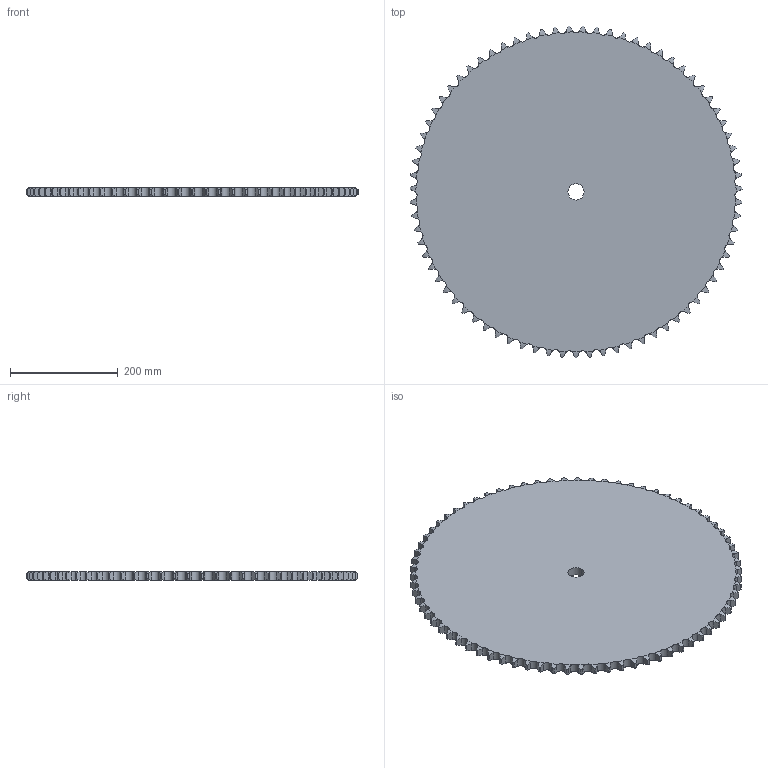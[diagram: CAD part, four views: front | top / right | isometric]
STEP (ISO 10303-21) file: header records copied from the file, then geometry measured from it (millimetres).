
FILE_DESCRIPTION((''),'2;1');
FILE_NAME('500-501-0075_PRT','2021-02-12T',('Brieden'),('Brieden'),'PRO/ENGINEER BY PARAMETRIC TECHNOLOGY CORPORATION, 2010160','PRO/ENGINEER BY PARAMETRIC TECHNOLOGY CORPORATION, 2010160','');
FILE_SCHEMA(('AUTOMOTIVE_DESIGN { 1 0 10303 214 1 1 1 1 }'));
Length unit declared in the file: millimetre
Products named in the file (1): 500-501-0075_PRT
Bounding box: 616.54 x 616.41 x 16.2 mm (x, y, z)
Volume: 4570681.5 mm3; surface area: 610980.6 mm2
Topology: 1 solids, 1 shells, 454 faces, 1356 edges, 904 vertices
Faces by surface type: cylinder 302, torus 150, plane 2
Entity records: 22842 total; most frequent: CARTESIAN_POINT 7223, ORIENTED_EDGE 2712, DIRECTION 2118, PRESENTATION_STYLE_ASSIGNMENT 1357, STYLED_ITEM 1357, CURVE_STYLE 1356, EDGE_CURVE 1356, AXIS2_PLACEMENT_3D 908
